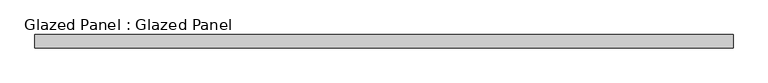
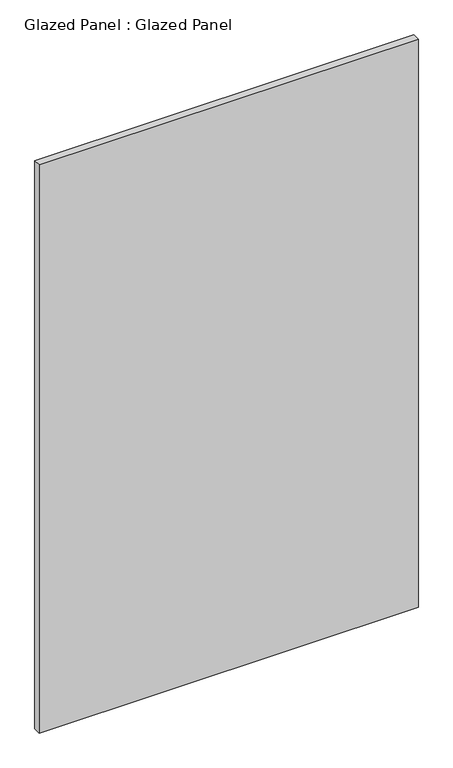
"""IFC4 building model written with IfcOpenShell, lengths in millimetres: plate geometry, Glazed Panel : Glazed Panel."""

from ifc_helpers import new_model, si_unit, origin, origin_with_axes, place, context, project, spatial, polyline, outline, extrude, source, transform, mapped, element, save


def glazed_panel_glazed_panel_c8631b44(model_context):
    return source(origin(), model_context, "Body", "SweptSolid", [
        extrude(outline(polyline([(663.575, 38.1), (-663.575, 38.1), (-663.575, 63.5), (663.575, 63.5), (663.575, 38.1)])), origin_with_axes(), (0.0, 0.0, 1.0), 2101.85),
    ])


if __name__ == "__main__":
    model = new_model("IFC4")
    model_context = context("Model", 3, world=origin())
    ifc_project = project(units=[si_unit("LENGTHUNIT", "METRE", prefix="MILLI")], contexts=[model_context])
    site = spatial("IfcSite", under=ifc_project)
    building = spatial("IfcBuilding", under=site)
    placement = place(None, origin())
    glazed_panel_glazed_panel_shape = glazed_panel_glazed_panel_c8631b44(model_context)
    element("IfcPlate", 1, ObjectType="Glazed Panel : Glazed Panel", at=placement, inside=building, context=model_context, shape_type="MappedRepresentation", body=[
        mapped(glazed_panel_glazed_panel_shape, transform((0.0, 0.0, 0.0), x_axis=(1.0, 0.0, 0.0), y_axis=(0.0, 1.0, 0.0), z_axis=(0.0, 0.0, 1.0))),
    ])
    save(model, "model.ifc")
